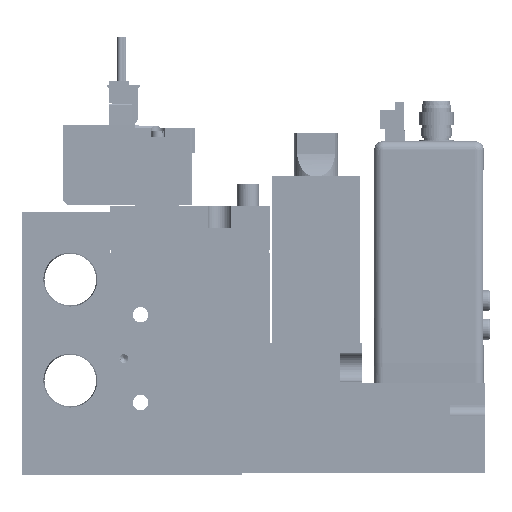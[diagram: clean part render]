
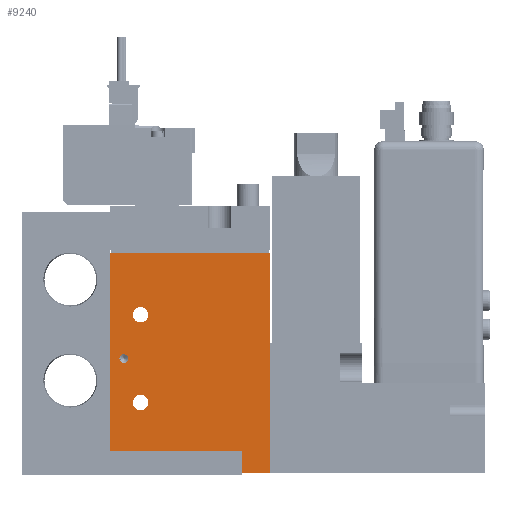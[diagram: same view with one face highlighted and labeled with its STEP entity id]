
A CAD part, left-side view. The second image highlights one B-rep face of the part: STEP entity #9240.
In plain terms, the highlighted planar face has unit normal (-1, 0, 0) as drawn and (1, 0, 0) by its records, which use the part's own axes.
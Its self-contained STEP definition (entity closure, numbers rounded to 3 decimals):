
#9240=ADVANCED_FACE('',(#19871,#19872,#19873,#19874),#19875,.F.);
#19871=FACE_BOUND('',#34078,.T.);
#19872=FACE_BOUND('',#34079,.T.);
#19873=FACE_BOUND('',#34080,.T.);
#19874=FACE_OUTER_BOUND('',#34081,.T.);
#19875=PLANE('',#34082);
#34078=EDGE_LOOP('',(#66555));
#34079=EDGE_LOOP('',(#66556));
#34080=EDGE_LOOP('',(#66557));
#34081=EDGE_LOOP('',(#66558,#66559,#66560,#66561));
#34082=AXIS2_PLACEMENT_3D('',#66562,#66563,#66564);
#66555=ORIENTED_EDGE('',*,*,#98076,.F.);
#66556=ORIENTED_EDGE('',*,*,#98071,.T.);
#66557=ORIENTED_EDGE('',*,*,#98068,.T.);
#66558=ORIENTED_EDGE('',*,*,#98086,.T.);
#66559=ORIENTED_EDGE('',*,*,#98079,.F.);
#66560=ORIENTED_EDGE('',*,*,#98081,.F.);
#66561=ORIENTED_EDGE('',*,*,#98085,.T.);
#66562=CARTESIAN_POINT('',(8.5,-19.444,50.0));
#66563=DIRECTION('',(-1.0,0.0,0.0));
#66564=DIRECTION('',(0.0,0.0,1.0));
#98068=EDGE_CURVE('',#118906,#118906,#118907,.T.);
#98071=EDGE_CURVE('',#118912,#118912,#118913,.T.);
#98076=EDGE_CURVE('',#118920,#118920,#118921,.T.);
#98079=EDGE_CURVE('',#118924,#118922,#118926,.T.);
#98081=EDGE_CURVE('',#118927,#118924,#118929,.T.);
#98085=EDGE_CURVE('',#118927,#118932,#118934,.T.);
#98086=EDGE_CURVE('',#118932,#118922,#118935,.T.);
#118906=VERTEX_POINT('',#152124);
#118907=CIRCLE('',#152125,1.75);
#118912=VERTEX_POINT('',#152130);
#118913=CIRCLE('',#152131,1.75);
#118920=VERTEX_POINT('',#152138);
#118921=CIRCLE('',#152139,1.0);
#118922=VERTEX_POINT('',#152140);
#118924=VERTEX_POINT('',#152143);
#118926=LINE('',#152146,#152147);
#118927=VERTEX_POINT('',#152148);
#118929=LINE('',#152151,#152152);
#118932=VERTEX_POINT('',#152155);
#118934=LINE('',#152158,#152159);
#118935=LINE('',#152160,#152161);
#152124=CARTESIAN_POINT('',(8.5,-10.694,16.0));
#152125=AXIS2_PLACEMENT_3D('',#181286,#181287,#181288);
#152130=CARTESIAN_POINT('',(8.5,-10.694,36.0));
#152131=AXIS2_PLACEMENT_3D('',#181295,#181296,#181297);
#152138=CARTESIAN_POINT('',(8.5,-17.244,26.0));
#152139=AXIS2_PLACEMENT_3D('',#181307,#181308,#181309);
#152140=CARTESIAN_POINT('',(8.5,17.056,0.0));
#152143=CARTESIAN_POINT('',(8.5,17.056,50.0));
#152146=CARTESIAN_POINT('',(8.5,17.056,50.0));
#152147=VECTOR('',#181312,1.0);
#152148=CARTESIAN_POINT('',(8.5,-19.444,50.0));
#152151=CARTESIAN_POINT('',(8.5,-19.444,50.0));
#152152=VECTOR('',#181314,1.0);
#152155=CARTESIAN_POINT('',(8.5,-19.444,0.0));
#152158=CARTESIAN_POINT('',(8.5,-19.444,50.0));
#152159=VECTOR('',#181319,1.0);
#152160=CARTESIAN_POINT('',(8.5,-19.444,0.0));
#152161=VECTOR('',#181320,1.0);
#181286=CARTESIAN_POINT('',(8.5,-12.444,16.0));
#181287=DIRECTION('',(-1.0,0.0,0.0));
#181288=DIRECTION('',(0.0,1.0,0.0));
#181295=CARTESIAN_POINT('',(8.5,-12.444,36.0));
#181296=DIRECTION('',(-1.0,0.0,0.0));
#181297=DIRECTION('',(0.0,1.0,0.0));
#181307=CARTESIAN_POINT('',(8.5,-16.244,26.0));
#181308=DIRECTION('',(1.0,0.,0.0));
#181309=DIRECTION('',(0.,-1.0,0.0));
#181312=DIRECTION('',(0.0,0.0,-1.0));
#181314=DIRECTION('',(0.0,1.0,0.0));
#181319=DIRECTION('',(0.0,0.0,-1.0));
#181320=DIRECTION('',(0.0,1.0,0.0));
